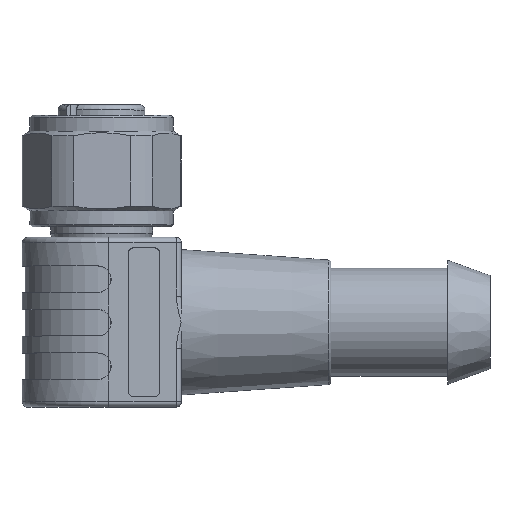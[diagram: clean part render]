
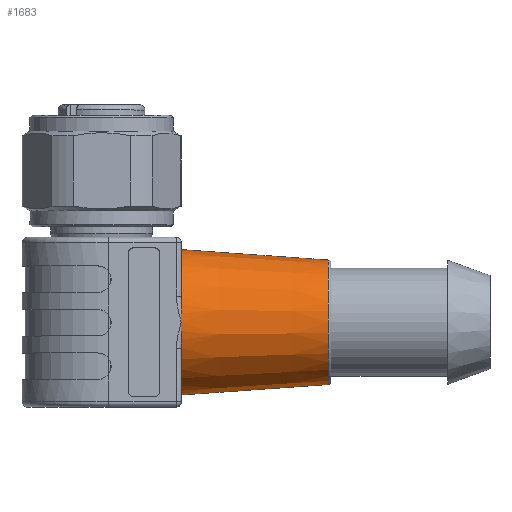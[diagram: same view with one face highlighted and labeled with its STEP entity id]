
A CAD part, top view. The second image highlights one B-rep face of the part: STEP entity #1683.
In plain terms, the highlighted conical face has half-angle 4.057 degrees and reference radius 6.358 mm.
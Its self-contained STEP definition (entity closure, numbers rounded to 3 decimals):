
#11 = DIRECTION ( 'NONE',  ( -1., 0., 0. ) ) ;
#52 = VERTEX_POINT ( 'NONE', #417 ) ;
#93 = ORIENTED_EDGE ( 'NONE', *, *, #214, .T. ) ;
#145 = CARTESIAN_POINT ( 'NONE',  ( -14.713, -12.777, 8.262 ) ) ;
#214 = EDGE_CURVE ( 'NONE', #52, #3463, #1296, .T. ) ;
#217 = EDGE_CURVE ( 'NONE', #3512, #3512, #1386, .T. ) ;
#323 = CARTESIAN_POINT ( 'NONE',  ( -14.713, -8.642, 7.961 ) ) ;
#368 = CARTESIAN_POINT ( 'NONE',  ( -14.713, -11.157, 7.805 ) ) ;
#417 = CARTESIAN_POINT ( 'NONE',  ( -14.713, -12.777, 21.049 ) ) ;
#431 = CONICAL_SURFACE ( 'NONE', #1009, 6.358, 0.071 ) ;
#444 = CARTESIAN_POINT ( 'NONE',  ( -14.713, -8.642, 21.35 ) ) ;
#461 = CARTESIAN_POINT ( 'NONE',  ( -14.713, -11.157, 21.505 ) ) ;
#743 = EDGE_LOOP ( 'NONE', ( #1715 ) ) ;
#775 = B_SPLINE_CURVE_WITH_KNOTS ( 'NONE', 3,
 ( #3659, #3088, #323, #1139 ),
 .UNSPECIFIED., .F., .F.,
 ( 4, 4 ),
 ( 0., 1. ),
 .UNSPECIFIED. ) ;
#803 = CARTESIAN_POINT ( 'NONE',  ( -14.713, -10.318, 14.655 ) ) ;
#872 = AXIS2_PLACEMENT_3D ( 'NONE', #2750, #3352, #2251 ) ;
#909 = EDGE_CURVE ( 'NONE', #3542, #2856, #775, .T. ) ;
#946 = CARTESIAN_POINT ( 'NONE',  ( -14.713, -10.318, 7.805 ) ) ;
#1009 = AXIS2_PLACEMENT_3D ( 'NONE', #1414, #11, #1962 ) ;
#1012 = CARTESIAN_POINT ( 'NONE',  ( -14.713, -7.859, 21.049 ) ) ;
#1024 = CARTESIAN_POINT ( 'NONE',  ( -14.713, -12.777, 8.262 ) ) ;
#1075 = CARTESIAN_POINT ( 'NONE',  ( -14.713, -10.318, 21.505 ) ) ;
#1139 = CARTESIAN_POINT ( 'NONE',  ( -14.713, -7.859, 8.262 ) ) ;
#1228 = CARTESIAN_POINT ( 'NONE',  ( -14.713, -11.995, 7.961 ) ) ;
#1234 = EDGE_CURVE ( 'NONE', #1256, #2903, #2751, .T. ) ;
#1256 = VERTEX_POINT ( 'NONE', #1012 ) ;
#1296 = CIRCLE ( 'NONE', #2522, 6.85 ) ;
#1351 = B_SPLINE_CURVE_WITH_KNOTS ( 'NONE', 3,
 ( #145, #1228, #368, #946 ),
 .UNSPECIFIED., .F., .F.,
 ( 4, 4 ),
 ( 0., 1. ),
 .UNSPECIFIED. ) ;
#1386 = CIRCLE ( 'NONE', #872, 5.866 ) ;
#1414 = CARTESIAN_POINT ( 'NONE',  ( -7.779, -10.318, 14.655 ) ) ;
#1512 = ORIENTED_EDGE ( 'NONE', *, *, #2996, .T. ) ;
#1556 = CARTESIAN_POINT ( 'NONE',  ( -14.713, -12.777, 21.049 ) ) ;
#1563 = CARTESIAN_POINT ( 'NONE',  ( -14.713, -7.859, 21.049 ) ) ;
#1590 = CARTESIAN_POINT ( 'NONE',  ( -14.713, -10.318, 21.505 ) ) ;
#1683 = ADVANCED_FACE ( 'NONE', ( #2581, #1833 ), #431, .T. ) ;
#1715 = ORIENTED_EDGE ( 'NONE', *, *, #217, .F. ) ;
#1833 = FACE_OUTER_BOUND ( 'NONE', #2344, .T. ) ;
#1854 = CARTESIAN_POINT ( 'NONE',  ( -14.713, -9.48, 21.505 ) ) ;
#1894 = DIRECTION ( 'NONE',  ( 1., 0., 0. ) ) ;
#1962 = DIRECTION ( 'NONE',  ( 0., -1., 0. ) ) ;
#2051 = CIRCLE ( 'NONE', #2661, 6.85 ) ;
#2251 = DIRECTION ( 'NONE',  ( 0., -1., 0. ) ) ;
#2287 = ORIENTED_EDGE ( 'NONE', *, *, #2473, .T. ) ;
#2344 = EDGE_LOOP ( 'NONE', ( #3149, #1512, #3531, #2287, #93, #2461 ) ) ;
#2414 = CARTESIAN_POINT ( 'NONE',  ( -14.713, -10.318, 21.505 ) ) ;
#2461 = ORIENTED_EDGE ( 'NONE', *, *, #3380, .T. ) ;
#2463 = CARTESIAN_POINT ( 'NONE',  ( -14.713, -10.318, 7.805 ) ) ;
#2473 = EDGE_CURVE ( 'NONE', #2903, #52, #2492, .T. ) ;
#2492 = B_SPLINE_CURVE_WITH_KNOTS ( 'NONE', 3,
 ( #2414, #461, #3248, #1556 ),
 .UNSPECIFIED., .F., .F.,
 ( 4, 4 ),
 ( 0., 1. ),
 .UNSPECIFIED. ) ;
#2494 = DIRECTION ( 'NONE',  ( 1., 0., 0. ) ) ;
#2522 = AXIS2_PLACEMENT_3D ( 'NONE', #803, #2494, #3341 ) ;
#2581 = FACE_BOUND ( 'NONE', #743, .T. ) ;
#2661 = AXIS2_PLACEMENT_3D ( 'NONE', #3600, #1894, #2766 ) ;
#2698 = CARTESIAN_POINT ( 'NONE',  ( -0.845, -16.185, 14.655 ) ) ;
#2700 = CARTESIAN_POINT ( 'NONE',  ( -14.713, -7.859, 8.262 ) ) ;
#2750 = CARTESIAN_POINT ( 'NONE',  ( -0.845, -10.318, 14.655 ) ) ;
#2751 = B_SPLINE_CURVE_WITH_KNOTS ( 'NONE', 3,
 ( #1563, #444, #1854, #1590 ),
 .UNSPECIFIED., .F., .F.,
 ( 4, 4 ),
 ( 0., 1. ),
 .UNSPECIFIED. ) ;
#2766 = DIRECTION ( 'NONE',  ( 0., 0., -1. ) ) ;
#2856 = VERTEX_POINT ( 'NONE', #2700 ) ;
#2903 = VERTEX_POINT ( 'NONE', #1075 ) ;
#2996 = EDGE_CURVE ( 'NONE', #2856, #1256, #2051, .T. ) ;
#3088 = CARTESIAN_POINT ( 'NONE',  ( -14.713, -9.48, 7.805 ) ) ;
#3149 = ORIENTED_EDGE ( 'NONE', *, *, #909, .T. ) ;
#3248 = CARTESIAN_POINT ( 'NONE',  ( -14.713, -11.995, 21.35 ) ) ;
#3341 = DIRECTION ( 'NONE',  ( 0., 0., -1. ) ) ;
#3352 = DIRECTION ( 'NONE',  ( 1., 0., 0. ) ) ;
#3380 = EDGE_CURVE ( 'NONE', #3463, #3542, #1351, .T. ) ;
#3463 = VERTEX_POINT ( 'NONE', #1024 ) ;
#3512 = VERTEX_POINT ( 'NONE', #2698 ) ;
#3531 = ORIENTED_EDGE ( 'NONE', *, *, #1234, .T. ) ;
#3542 = VERTEX_POINT ( 'NONE', #2463 ) ;
#3600 = CARTESIAN_POINT ( 'NONE',  ( -14.713, -10.318, 14.655 ) ) ;
#3659 = CARTESIAN_POINT ( 'NONE',  ( -14.713, -10.318, 7.805 ) ) ;
